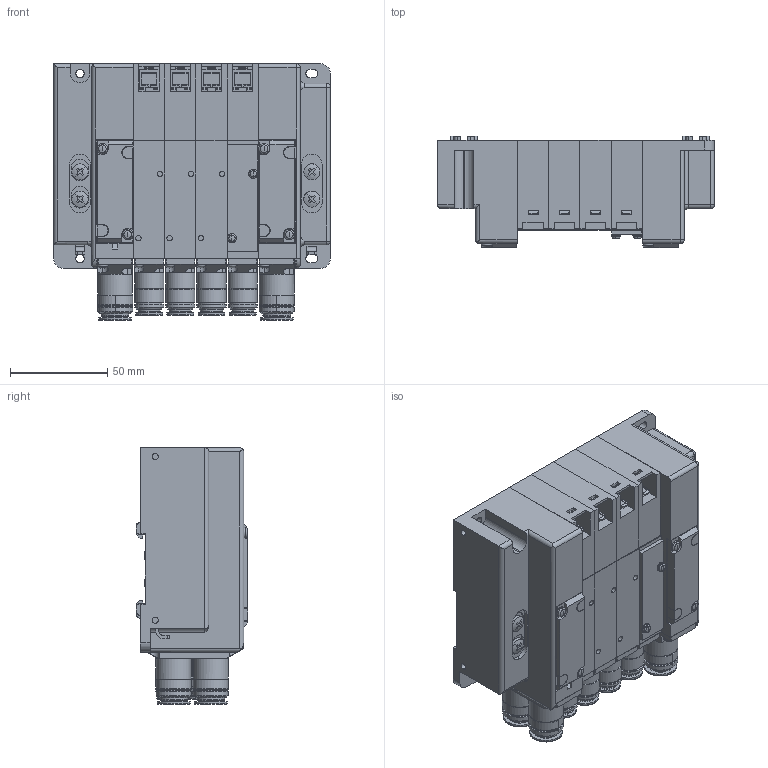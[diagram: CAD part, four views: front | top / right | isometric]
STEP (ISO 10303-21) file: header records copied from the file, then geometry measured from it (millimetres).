
FILE_DESCRIPTION( (''), '2;1');
FILE_NAME ('CVICAD02.4348.F15M4XSJ-JR-B1-DN_21815.stp','2021-07-12T19:14:36',(''),(''),'spGate 12.6.6','','');
FILE_SCHEMA (('AUTOMOTIVE_DESIGN'));
Length unit declared in the file: millimetre
Products named in the file (19): Assembly; CVICAD02-prt0; CVICAD02-prt1; CVICAD02-prt2; CVICAD02-prt3; CVICAD02-prt4; CVICAD02-prt5; CVICAD02-prt6; CVICAD02-asm1; CVICAD02-asm2; CVICAD02-prt15; CVICAD02-prt7; CVICAD02-prt8; CVICAD02-prt9; CVICAD02-prt10; CVICAD02-prt11; CVICAD02-prt12; CVICAD02-prt13; CVICAD02-prt14
Assembly tree (33 placements, depth 3):
  Assembly
    CVICAD02-prt0  x4
    CVICAD02-prt1  x2
    CVICAD02-prt2  x2
    CVICAD02-prt3
    CVICAD02-prt4  x4
    CVICAD02-prt5
    CVICAD02-prt6
    CVICAD02-asm1
      CVICAD02-prt7
      CVICAD02-prt8
      CVICAD02-prt9
      CVICAD02-prt10
      CVICAD02-prt11
      CVICAD02-prt12
      CVICAD02-prt13
    CVICAD02-asm2  x2
      CVICAD02-prt7
      CVICAD02-prt8
      CVICAD02-prt9
      CVICAD02-prt10
      CVICAD02-prt12
      CVICAD02-prt14
      CVICAD02-prt13
    CVICAD02-prt15
Bounding box: 142 x 57.2 x 131.6 mm (x, y, z)
Volume: 672859.1 mm3; surface area: 157982 mm2
Topology: 15 solids, 15 shells, 2660 faces, 6833 edges, 4393 vertices
Faces by surface type: plane 1682, cylinder 659, bspline 288, sphere 31
Entity records: 66477 total; most frequent: CARTESIAN_POINT 8796, ORIENTED_EDGE 6578, DIRECTION 6266, COLOUR_RGB 4561, PRESENTATION_STYLE_ASSIGNMENT 4561, STYLED_ITEM 4561, EDGE_CURVE 3289, DRAUGHTING_PRE_DEFINED_CURVE_FONT 3289
